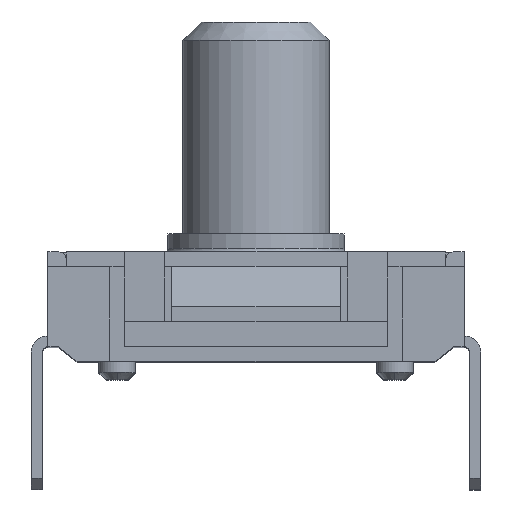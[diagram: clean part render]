
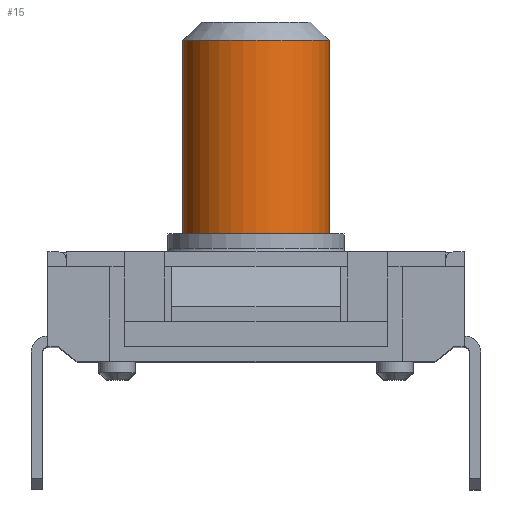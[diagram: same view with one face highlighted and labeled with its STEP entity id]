
A CAD part, top view. The second image highlights one B-rep face of the part: STEP entity #15.
In plain terms, the highlighted cylindrical face has radius 2 mm (diameter 4 mm), a partial arc.
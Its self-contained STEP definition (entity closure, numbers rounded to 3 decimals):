
#15 = ADVANCED_FACE ( 'NONE', ( #2871 ), #2903, .T. ) ;
#16 = EDGE_LOOP ( 'NONE', ( #17, #217, #64, #67 ) ) ;
#17 = ORIENTED_EDGE ( 'NONE', *, *, #240, .T. ) ;
#64 = ORIENTED_EDGE ( 'NONE', *, *, #65, .F. ) ;
#65 = EDGE_CURVE ( 'NONE', #66, #219, #2957, .T. ) ;
#66 = VERTEX_POINT ( 'NONE', #3006 ) ;
#67 = ORIENTED_EDGE ( 'NONE', *, *, #68, .F. ) ;
#68 = EDGE_CURVE ( 'NONE', #292, #66, #3004, .T. ) ;
#217 = ORIENTED_EDGE ( 'NONE', *, *, #218, .F. ) ;
#218 = EDGE_CURVE ( 'NONE', #219, #238, #3373, .T. ) ;
#219 = VERTEX_POINT ( 'NONE', #3369 ) ;
#238 = VERTEX_POINT ( 'NONE', #3438 ) ;
#240 = EDGE_CURVE ( 'NONE', #292, #238, #3577, .T. ) ;
#292 = VERTEX_POINT ( 'NONE', #3789 ) ;
#2865 = CARTESIAN_POINT ( 'NONE',  ( 0., 9.3, 0. ) ) ;
#2871 = FACE_OUTER_BOUND ( 'NONE', #16, .T. ) ;
#2900 = DIRECTION ( 'NONE',  ( -1., 0., 0. ) ) ;
#2901 = DIRECTION ( 'NONE',  ( 0., -1., 0. ) ) ;
#2902 = AXIS2_PLACEMENT_3D ( 'NONE', #2865, #2901, #2900 ) ;
#2903 = CYLINDRICAL_SURFACE ( 'NONE', #2902, 2. ) ;
#2953 = DIRECTION ( 'NONE',  ( -1., 0., 0. ) ) ;
#2954 = DIRECTION ( 'NONE',  ( 0., -1., 0. ) ) ;
#2955 = CARTESIAN_POINT ( 'NONE',  ( 0., 4., 0. ) ) ;
#2956 = AXIS2_PLACEMENT_3D ( 'NONE', #2955, #2954, #2953 ) ;
#2957 = CIRCLE ( 'NONE', #2956, 2. ) ;
#3001 = DIRECTION ( 'NONE',  ( 0., -1., 0. ) ) ;
#3002 = VECTOR ( 'NONE', #3001, 1000. ) ;
#3003 = CARTESIAN_POINT ( 'NONE',  ( 2., 9.3, 0. ) ) ;
#3004 = LINE ( 'NONE', #3003, #3002 ) ;
#3006 = CARTESIAN_POINT ( 'NONE',  ( 2., 4., 0. ) ) ;
#3369 = CARTESIAN_POINT ( 'NONE',  ( -2., 4., 0. ) ) ;
#3370 = DIRECTION ( 'NONE',  ( 0., 1., 0. ) ) ;
#3371 = VECTOR ( 'NONE', #3370, 1000. ) ;
#3372 = CARTESIAN_POINT ( 'NONE',  ( -2., 9.3, 0. ) ) ;
#3373 = LINE ( 'NONE', #3372, #3371 ) ;
#3438 = CARTESIAN_POINT ( 'NONE',  ( -2., 9.3, 0. ) ) ;
#3563 = DIRECTION ( 'NONE',  ( -1., 0., 0. ) ) ;
#3577 = CIRCLE ( 'NONE', #3578, 2. ) ;
#3578 = AXIS2_PLACEMENT_3D ( 'NONE', #3611, #3628, #3563 ) ;
#3611 = CARTESIAN_POINT ( 'NONE',  ( 0., 9.3, 0. ) ) ;
#3628 = DIRECTION ( 'NONE',  ( 0., -1., 0. ) ) ;
#3789 = CARTESIAN_POINT ( 'NONE',  ( 2., 9.3, 0. ) ) ;
